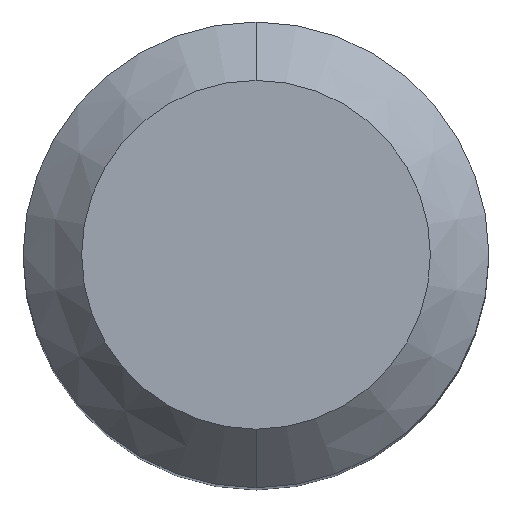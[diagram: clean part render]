
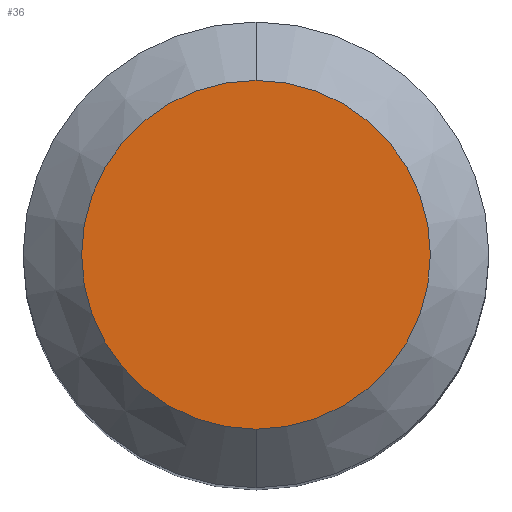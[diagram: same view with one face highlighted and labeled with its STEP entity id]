
A CAD part, top view. The second image highlights one B-rep face of the part: STEP entity #36.
In plain terms, the highlighted planar face has unit normal (0, 0, 1).
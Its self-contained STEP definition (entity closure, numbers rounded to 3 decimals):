
#32=PLANE('',#150);
#36=ADVANCED_FACE('',(#44),#32,.T.);
#44=FACE_OUTER_BOUND('',#52,.F.);
#52=EDGE_LOOP('',(#67,#68));
#67=ORIENTED_EDGE('',*,*,#114,.F.);
#68=ORIENTED_EDGE('',*,*,#112,.F.);
#112=EDGE_CURVE('',#130,#129,#126,.T.);
#114=EDGE_CURVE('',#129,#130,#128,.T.);
#126=CIRCLE('',#144,0.596);
#128=CIRCLE('',#146,0.596);
#129=VERTEX_POINT('',#199);
#130=VERTEX_POINT('',#200);
#144=AXIS2_PLACEMENT_3D('',#212,#168,#169);
#146=AXIS2_PLACEMENT_3D('',#214,#172,#173);
#150=AXIS2_PLACEMENT_3D('',#224,#186,#187);
#168=DIRECTION('',(0.,0.,1.));
#169=DIRECTION('',(0.,1.,0.));
#172=DIRECTION('',(0.,0.,1.));
#173=DIRECTION('',(0.,-1.,0.));
#186=DIRECTION('',(0.,0.,1.));
#187=DIRECTION('',(1.,0.,0.));
#199=CARTESIAN_POINT('',(271.025,415.298,560.036));
#200=CARTESIAN_POINT('',(271.025,416.491,560.036));
#212=CARTESIAN_POINT('',(271.025,415.894,560.036));
#214=CARTESIAN_POINT('',(271.025,415.894,560.036));
#224=CARTESIAN_POINT('',(270.229,415.098,560.036));
